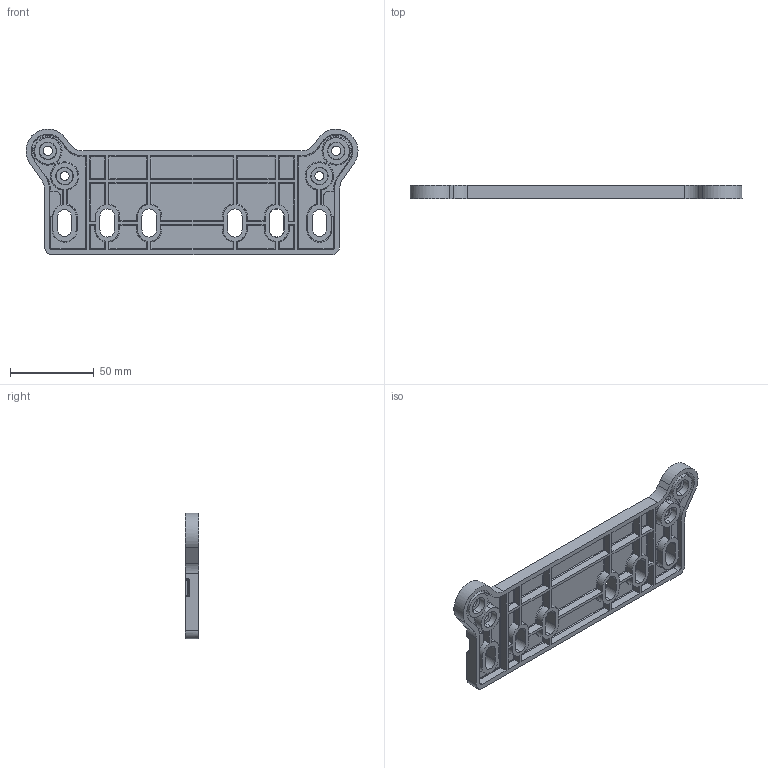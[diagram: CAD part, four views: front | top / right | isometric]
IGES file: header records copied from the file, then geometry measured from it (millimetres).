
Start section: SolidWorks IGES file using analytic representation for surfaces
Global section: file name: G:\3DRAW\ARCA\3DCAM\IGS\Flange8in.IGS; native system: SolidWorks 2008; preprocessor: SolidWorks 2008; author: KennethW; date: 090701.134004; units: millimetre
Bounding box: 198 x 8 x 74.98 mm (x, y, z)
Volume: 51086 mm3; surface area: 37550.4 mm2
Topology: 1 solids, 1 shells, 399 faces, 1041 edges, 630 vertices
Faces by surface type: revolution 201, plane 161, bspline 37
